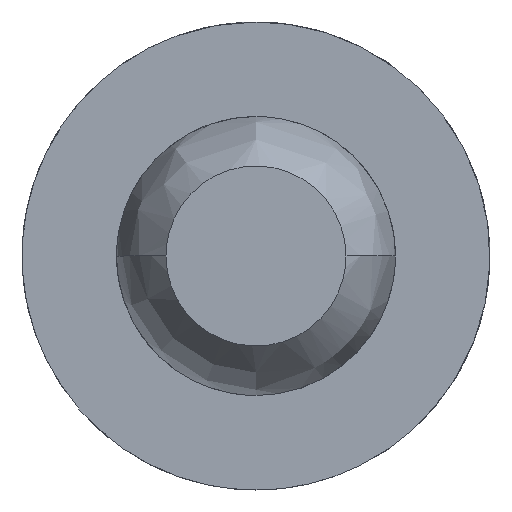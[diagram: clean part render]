
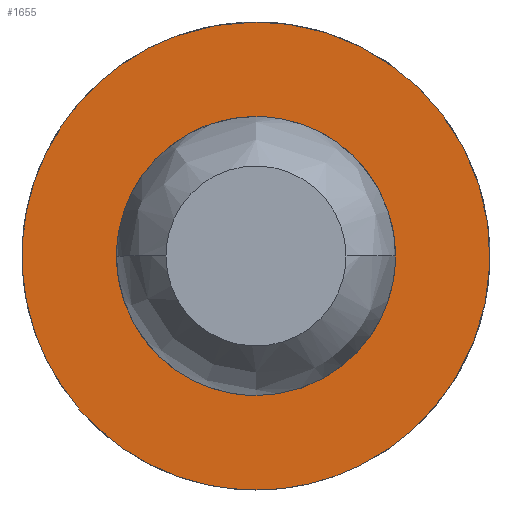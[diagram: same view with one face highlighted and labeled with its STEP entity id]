
A CAD part, left-side view. The second image highlights one B-rep face of the part: STEP entity #1655.
In plain terms, the highlighted free-form (B-spline) face has degree [1, 1] with [2, 2] control points.
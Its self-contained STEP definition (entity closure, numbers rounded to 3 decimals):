
#23 = CARTESIAN_POINT ( 'NONE',  ( 30.988, 0., -0.762 ) ) ;
#29 = CARTESIAN_POINT ( 'NONE',  ( 30.988, 0.396, 0.682 ) ) ;
#82 = CARTESIAN_POINT ( 'NONE',  ( 30.988, 2.005, -2.005 ) ) ;
#85 = CARTESIAN_POINT ( 'NONE',  ( 30.988, 0., 0.762 ) ) ;
#96 = CARTESIAN_POINT ( 'NONE',  ( 30.988, 1.731, -0.999 ) ) ;
#105 = CARTESIAN_POINT ( 'NONE',  ( 30.988, 0., -0.762 ) ) ;
#156 = CARTESIAN_POINT ( 'NONE',  ( 30.988, 0.26, -1.981 ) ) ;
#166 = CARTESIAN_POINT ( 'NONE',  ( 30.988, 0.682, 0.396 ) ) ;
#204 = B_SPLINE_CURVE_WITH_KNOTS ( 'NONE', 3,
 ( #1194, #1331, #518, #1060, #1610, #392, #1766, #543, #401, #1493, #371, #96, #652, #1198, #1752, #715, #156, #1505 ),
 .UNSPECIFIED., .F., .F.,
 ( 4, 2, 2, 2, 2, 2, 2, 2, 4 ),
 ( 0., 0.393, 0.785, 1.178, 1.571, 1.963, 2.356, 2.749, 3.142 ),
 .UNSPECIFIED. ) ;
#254 = CARTESIAN_POINT ( 'NONE',  ( 30.988, -2.005, 2.005 ) ) ;
#299 = CARTESIAN_POINT ( 'NONE',  ( 30.988, 0., 1.981 ) ) ;
#306 = CARTESIAN_POINT ( 'NONE',  ( 30.988, 0.762, 0.202 ) ) ;
#343 = B_SPLINE_CURVE_WITH_KNOTS ( 'NONE', 3,
 ( #23, #442, #1536, #585, #1127, #306, #166, #29, #1686, #1779 ),
 .UNSPECIFIED., .F., .F.,
 ( 4, 2, 2, 2, 4 ),
 ( 0., 0.785, 1.571, 2.356, 3.142 ),
 .UNSPECIFIED. ) ;
#371 = CARTESIAN_POINT ( 'NONE',  ( 30.988, 1.93, -0.518 ) ) ;
#372 = EDGE_CURVE ( 'NONE', #1524, #808, #343, .T. ) ;
#392 = CARTESIAN_POINT ( 'NONE',  ( 30.988, 1.585, 1.217 ) ) ;
#401 = CARTESIAN_POINT ( 'NONE',  ( 30.988, 1.981, 0.26 ) ) ;
#442 = CARTESIAN_POINT ( 'NONE',  ( 30.988, 0.202, -0.762 ) ) ;
#453 = CARTESIAN_POINT ( 'NONE',  ( 30.988, -3.962, 1.981 ) ) ;
#518 = CARTESIAN_POINT ( 'NONE',  ( 30.988, 0.518, 1.93 ) ) ;
#543 = CARTESIAN_POINT ( 'NONE',  ( 30.988, 1.93, 0.518 ) ) ;
#585 = CARTESIAN_POINT ( 'NONE',  ( 30.988, 0.682, -0.396 ) ) ;
#603 = EDGE_CURVE ( 'NONE', #1524, #808, #1567, .T. ) ;
#613 = FACE_OUTER_BOUND ( 'NONE', #1243, .T. ) ;
#652 = CARTESIAN_POINT ( 'NONE',  ( 30.988, 1.585, -1.217 ) ) ;
#705 = CARTESIAN_POINT ( 'NONE',  ( 30.988, 0., -0.762 ) ) ;
#715 = CARTESIAN_POINT ( 'NONE',  ( 30.988, 0.518, -1.93 ) ) ;
#799 = CARTESIAN_POINT ( 'NONE',  ( 30.988, -1.524, -0.762 ) ) ;
#808 = VERTEX_POINT ( 'NONE', #85 ) ;
#835 = ORIENTED_EDGE ( 'NONE', *, *, #1277, .T. ) ;
#875 = CARTESIAN_POINT ( 'NONE',  ( 30.988, -3.962, -1.981 ) ) ;
#962 = CARTESIAN_POINT ( 'NONE',  ( 30.988, 2.005, 2.005 ) ) ;
#997 = ORIENTED_EDGE ( 'NONE', *, *, #1745, .F. ) ;
#1060 = CARTESIAN_POINT ( 'NONE',  ( 30.988, 0.999, 1.731 ) ) ;
#1092 = VERTEX_POINT ( 'NONE', #1108 ) ;
#1096 = CARTESIAN_POINT ( 'NONE',  ( 30.988, 0., 0.762 ) ) ;
#1108 = CARTESIAN_POINT ( 'NONE',  ( 30.988, 0., 1.981 ) ) ;
#1127 = CARTESIAN_POINT ( 'NONE',  ( 30.988, 0.762, -0.202 ) ) ;
#1194 = CARTESIAN_POINT ( 'NONE',  ( 30.988, 0., 1.981 ) ) ;
#1198 = CARTESIAN_POINT ( 'NONE',  ( 30.988, 1.217, -1.585 ) ) ;
#1232 = B_SPLINE_SURFACE_WITH_KNOTS ( 'NONE', 1, 1, ( 
 ( #254, #962 ),
 ( #1370, #82 ) ),
 .UNSPECIFIED., .F., .F., .F.,
 ( 2, 2 ),
 ( 2, 2 ),
 ( 0., 1. ),
 ( 0., 1. ),
 .UNSPECIFIED. ) ;
#1243 = EDGE_LOOP ( 'NONE', ( #997, #835 ) ) ;
#1277 = EDGE_CURVE ( 'NONE', #1092, #1703, #204, .T. ) ;
#1331 = CARTESIAN_POINT ( 'NONE',  ( 30.988, 0.26, 1.981 ) ) ;
#1339 = CARTESIAN_POINT ( 'NONE',  ( 30.988, -1.524, 0.762 ) ) ;
#1358 = CARTESIAN_POINT ( 'NONE',  ( 30.988, 0., -1.981 ) ) ;
#1370 = CARTESIAN_POINT ( 'NONE',  ( 30.988, -2.005, -2.005 ) ) ;
#1440 = ORIENTED_EDGE ( 'NONE', *, *, #372, .T. ) ;
#1487 = EDGE_LOOP ( 'NONE', ( #1440, #1634 ) ) ;
#1493 = CARTESIAN_POINT ( 'NONE',  ( 30.988, 1.981, -0.26 ) ) ;
#1505 = CARTESIAN_POINT ( 'NONE',  ( 30.988, 0., -1.981 ) ) ;
#1524 = VERTEX_POINT ( 'NONE', #705 ) ;
#1536 = CARTESIAN_POINT ( 'NONE',  ( 30.988, 0.396, -0.682 ) ) ;
#1549 = FACE_BOUND ( 'NONE', #1487, .T. ) ;
#1567 =( BOUNDED_CURVE ( )  B_SPLINE_CURVE ( 3, ( #105, #799, #1339, #1096 ),
 .UNSPECIFIED., .F., .T. ) 
 B_SPLINE_CURVE_WITH_KNOTS ( ( 4, 4 ),
 ( -3.142, 0. ),
 .UNSPECIFIED. ) 
 CURVE ( )  GEOMETRIC_REPRESENTATION_ITEM ( )  RATIONAL_B_SPLINE_CURVE ( ( 1., 0.333, 0.333, 1. ) ) 
 REPRESENTATION_ITEM ( '' )  );
#1610 = CARTESIAN_POINT ( 'NONE',  ( 30.988, 1.217, 1.585 ) ) ;
#1634 = ORIENTED_EDGE ( 'NONE', *, *, #603, .F. ) ;
#1655 = ADVANCED_FACE ( 'NONE', ( #1549, #613 ), #1232, .F. ) ;
#1666 = CARTESIAN_POINT ( 'NONE',  ( 30.988, 0., -1.981 ) ) ;
#1686 = CARTESIAN_POINT ( 'NONE',  ( 30.988, 0.202, 0.762 ) ) ;
#1703 = VERTEX_POINT ( 'NONE', #1358 ) ;
#1745 = EDGE_CURVE ( 'NONE', #1092, #1703, #1750, .T. ) ;
#1750 =( BOUNDED_CURVE ( )  B_SPLINE_CURVE ( 3, ( #299, #453, #875, #1666 ),
 .UNSPECIFIED., .F., .T. ) 
 B_SPLINE_CURVE_WITH_KNOTS ( ( 4, 4 ),
 ( -3.142, 0. ),
 .UNSPECIFIED. ) 
 CURVE ( )  GEOMETRIC_REPRESENTATION_ITEM ( )  RATIONAL_B_SPLINE_CURVE ( ( 1., 0.333, 0.333, 1. ) ) 
 REPRESENTATION_ITEM ( '' )  );
#1752 = CARTESIAN_POINT ( 'NONE',  ( 30.988, 0.999, -1.731 ) ) ;
#1766 = CARTESIAN_POINT ( 'NONE',  ( 30.988, 1.731, 0.999 ) ) ;
#1779 = CARTESIAN_POINT ( 'NONE',  ( 30.988, 0., 0.762 ) ) ;
